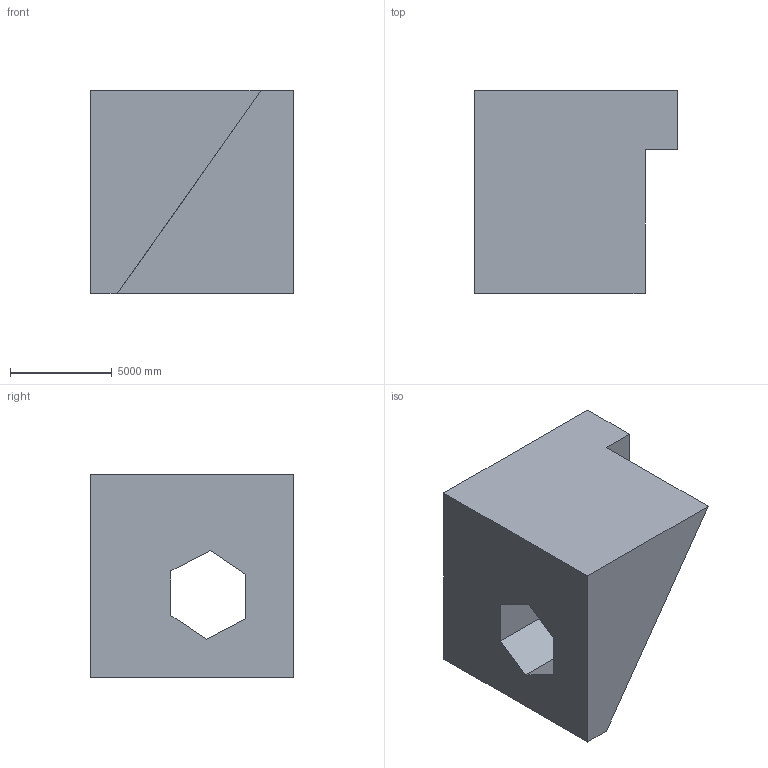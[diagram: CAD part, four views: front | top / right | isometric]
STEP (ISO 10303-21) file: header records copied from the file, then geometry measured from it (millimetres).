
FILE_DESCRIPTION (( 'STEP AP203' ), '1' );
FILE_NAME ('15.STEP', '2022-07-28T13:24:39', ( 'user' ), ( '' ), 'SwSTEP 2.0', 'SolidWorks 2021', '' );
FILE_SCHEMA (( 'CONFIG_CONTROL_DESIGN' ));
Length unit declared in the file: centimetre
Products named in the file (1): 15
Bounding box: 10000 x 10000 x 10000 mm (x, y, z)
Volume: 585035549690.5 mm3; surface area: 570633857.9 mm2
Topology: 1 solids, 1 shells, 14 faces, 36 edges, 24 vertices
Faces by surface type: plane 14
Entity records: 501 total; most frequent: CARTESIAN_POINT 75, ORIENTED_EDGE 72, DIRECTION 66, EDGE_CURVE 36, VECTOR 36, LINE 36, VERTEX_POINT 24, EDGE_LOOP 16
